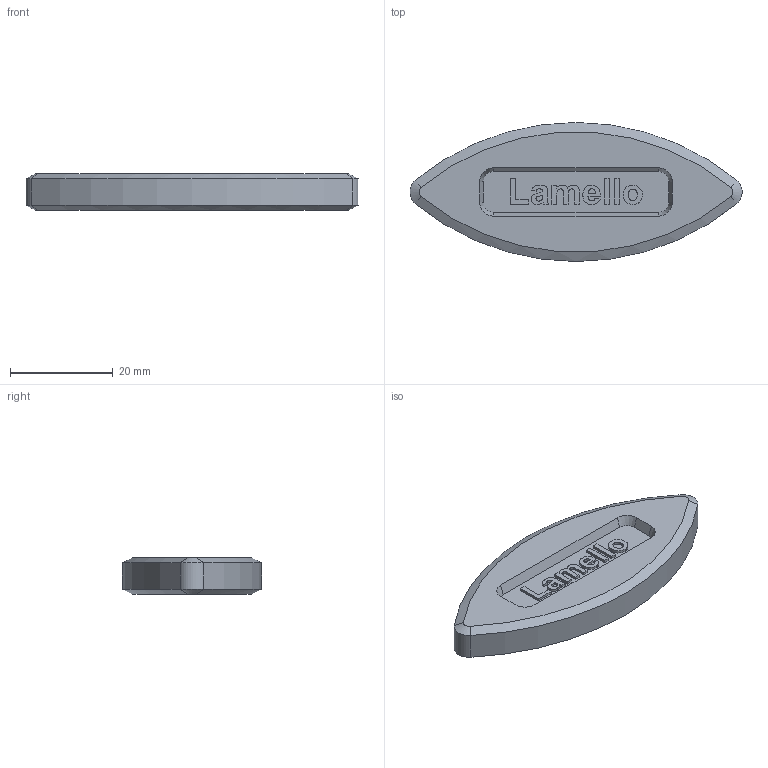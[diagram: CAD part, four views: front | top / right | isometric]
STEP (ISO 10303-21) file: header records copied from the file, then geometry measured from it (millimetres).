
FILE_DESCRIPTION(/* description */ (''),/* implementation_level */ '2;1');
FILE_NAME(/* name */ 'Z:\Lamello CH\ENTWICKLUNG\50 CAD Bibliothek\CAD Lamello Download\1 P-System\CAD-Bisco-P-14\Bisco_P-14.stp',/* time_stamp */ '2021-07-06T14:36:07+02:00',/* author */ ('matthiask'),/* organization */ (''),/* preprocessor_version */ 'ST-DEVELOPER v18',/* originating_system */ 'Autodesk Inventor 2020',/* authorisation */ '');
FILE_SCHEMA (('AUTOMOTIVE_DESIGN { 1 0 10303 214 3 1 1 }'));
Length unit declared in the file: millimetre
Products named in the file (1): Bisco P-15
Bounding box: 64.49 x 27 x 7 mm (x, y, z)
Volume: 7368 mm3; surface area: 3670.3 mm2
Topology: 1 solids, 1 shells, 212 faces, 553 edges, 366 vertices
Faces by surface type: bspline 97, plane 95, cone 16, cylinder 4
Entity records: 6940 total; most frequent: CARTESIAN_POINT 2325, ORIENTED_EDGE 1106, DIRECTION 623, EDGE_CURVE 553, VERTEX_POINT 366, LINE 327, VECTOR 327, EDGE_LOOP 235
